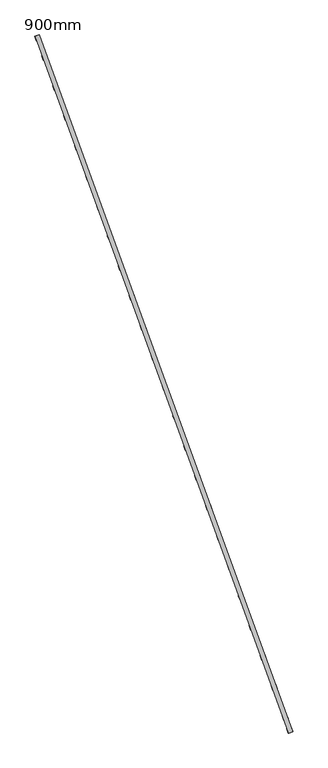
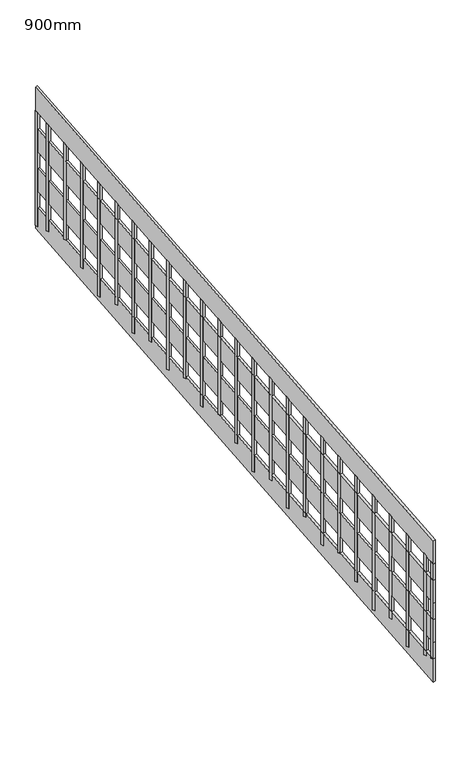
"""IFC4 building model written with IfcOpenShell, lengths in millimetres: railing geometry, 900mm."""

from ifc_helpers import new_model, si_unit, frame, origin, place, context, project, spatial, polyline, outline, extrude, source, transform, mapped, element, save


def railing_900mm_ea350c1b(model_context):
    return source(origin(), model_context, "Body", "SweptSolid", [
        extrude(outline(polyline([(-91.076923, -147.9999999), (0.0, 0.0), (3816.0843806, 0.0), (3725.0074575, -147.9999999), (-91.076923, -147.9999999)])), frame((19590.0899553, 24434.2551874, 5153.8461538), z_axis=(0.939692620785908, 0.3420201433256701, 0.0), x_axis=(-0.29128429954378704, 0.8002970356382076, 0.5240974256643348)), (0.0, 0.0, 1.0), 19.0),
        extrude(outline(polyline([(-91.076923, -147.9999999), (0.0, 0.0), (3816.0843806, 0.0), (3725.0074575, -147.9999999), (-91.076923, -147.9999999)])), frame((19590.0899553, 24434.2551874, 4853.8461538), z_axis=(0.9396926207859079, 0.34202014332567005, 0.0), x_axis=(-0.29128429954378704, 0.8002970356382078, 0.5240974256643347)), (0.0, 0.0, 1.0), 19.0),
        extrude(outline(polyline([(-91.076923, -147.9999999), (0.0, 0.0), (3816.0843806, 0.0), (3725.0074575, -147.9999999), (-91.076923, -147.9999999)])), frame((19590.0899553, 24434.2551874, 4553.8461538), z_axis=(0.9396926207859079, 0.34202014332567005, 0.0), x_axis=(-0.29128429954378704, 0.8002970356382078, 0.5240974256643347)), (0.0, 0.0, 1.0), 19.0),
        extrude(outline(polyline([(-91.076923, -147.9999999), (0.0, 0.0), (3816.0843806, 0.0), (3725.0074575, -147.9999999), (-91.076923, -147.9999999)])), frame((19590.0899553, 24434.2551874, 4253.8461538), z_axis=(0.9396926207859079, 0.34202014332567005, 0.0), x_axis=(-0.29128429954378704, 0.8002970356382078, 0.5240974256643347)), (0.0, 0.0, 1.0), 19.0),
        extrude(outline(polyline([(918.5290805, -20.0), (106.1538461, -20.0), (93.8461538, 0.0), (918.5290805, 0.0), (918.5290805, -20.0)])), frame((18508.8364561, 27403.512859, 7018.5290805), z_axis=(0.939692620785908, 0.3420201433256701, 0.0), x_axis=(0.0, 0.0, -1.0)), (0.0, 0.0, 1.0), 20.0),
        extrude(outline(polyline([(832.3752344, -20.0), (106.1538462, -20.0), (93.8461539, 0.0), (832.3752344, 0.0), (832.3752344, -20.0)])), frame((18556.7192762, 27271.9558921, 6932.3752344), z_axis=(0.939692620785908, 0.3420201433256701, 0.0), x_axis=(0.0, 0.0, -1.0)), (0.0, 0.0, 1.0), 20.0),
        extrude(outline(polyline([(900.067542, -20.0), (106.1538461, -20.0), (93.8461538, 0.0), (900.067542, 0.0), (900.067542, -20.0)])), frame((18604.6020962, 27140.3989252, 6846.2213882), z_axis=(0.939692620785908, 0.3420201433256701, 0.0), x_axis=(0.0, 0.0, -1.0)), (0.0, 0.0, 1.0), 20.0),
        extrude(outline(polyline([(967.7598498, -20.0), (106.1538462, -20.0), (93.8461539, 0.0), (967.7598498, 0.0), (967.7598498, -20.0)])), frame((18652.4849163, 27008.8419583, 6760.0675421), z_axis=(0.939692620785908, 0.3420201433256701, 0.0), x_axis=(0.0, 0.0, -1.0)), (0.0, 0.0, 1.0), 20.0),
        extrude(outline(polyline([(881.6060036, -20.0000001), (106.1538462, -20.0000001), (93.8461538, 0.0), (881.6060036, 0.0), (881.6060036, -20.0000001)])), frame((18700.3677364, 26877.2849914, 6673.9136959), z_axis=(0.939692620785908, 0.3420201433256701, 0.0), x_axis=(0.0, 0.0, -1.0)), (0.0, 0.0, 1.0), 20.0),
        extrude(outline(polyline([(949.2983112, -20.0), (106.1538461, -20.0), (93.8461538, 0.0), (949.2983112, 0.0), (949.2983112, -20.0)])), frame((18748.2505564, 26745.7280244, 6587.7598497), z_axis=(0.939692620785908, 0.3420201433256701, 0.0), x_axis=(0.0, 0.0, -1.0)), (0.0, 0.0, 1.0), 20.0),
        extrude(outline(polyline([(863.1444651, -20.0), (106.1538462, -20.0), (93.8461539, 0.0), (863.1444651, 0.0), (863.1444651, -20.0)])), frame((18796.1333765, 26614.1710575, 6501.6060036), z_axis=(0.939692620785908, 0.3420201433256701, 0.0), x_axis=(0.0, 0.0, -1.0)), (0.0, 0.0, 1.0), 20.0),
        extrude(outline(polyline([(930.8367728, -20.0), (106.1538461, -20.0), (93.8461538, 0.0), (930.8367728, 0.0), (930.8367728, -20.0)])), frame((18844.0161966, 26482.6140906, 6415.4521574), z_axis=(0.939692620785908, 0.3420201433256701, 0.0), x_axis=(0.0, 0.0, -1.0)), (0.0, 0.0, 1.0), 20.0),
        extrude(outline(polyline([(844.6829267, -20.0), (106.1538462, -20.0), (93.8461539, 0.0), (844.6829267, 0.0), (844.6829267, -20.0)])), frame((18891.8990166, 26351.0571237, 6329.2983113), z_axis=(0.939692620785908, 0.3420201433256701, 0.0), x_axis=(0.0, 0.0, -1.0)), (0.0, 0.0, 1.0), 20.0),
        extrude(outline(polyline([(912.3752343, -20.0), (106.1538461, -20.0), (93.8461538, 0.0), (912.3752343, 0.0), (912.3752343, -20.0)])), frame((18939.7818367, 26219.5001568, 6243.1444651), z_axis=(0.939692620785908, 0.3420201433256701, 0.0), x_axis=(0.0, 0.0, -1.0)), (0.0, 0.0, 1.0), 20.0),
        extrude(outline(polyline([(826.2213882, -20.0), (106.1538462, -20.0), (93.8461539, 0.0), (826.2213882, 0.0), (826.2213882, -20.0)])), frame((18987.6646568, 26087.9431899, 6156.990619), z_axis=(0.939692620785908, 0.3420201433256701, 0.0), x_axis=(0.0, 0.0, -1.0)), (0.0, 0.0, 1.0), 20.0),
        extrude(outline(polyline([(893.9136959, -20.0), (106.1538461, -20.0), (93.8461538, 0.0), (893.9136959, 0.0), (893.9136959, -20.0)])), frame((19035.5474768, 25956.386223, 6070.8367728), z_axis=(0.939692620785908, 0.3420201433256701, 0.0), x_axis=(0.0, 0.0, -1.0)), (0.0, 0.0, 1.0), 20.0),
        extrude(outline(polyline([(961.6060036, -20.0), (106.1538462, -20.0), (93.8461539, 0.0), (961.6060036, 0.0), (961.6060036, -20.0)])), frame((19083.4302969, 25824.8292561, 5984.6829267), z_axis=(0.939692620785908, 0.3420201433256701, 0.0), x_axis=(0.0, 0.0, -1.0)), (0.0, 0.0, 1.0), 20.0),
        extrude(outline(polyline([(875.4521574, -20.0), (106.1538461, -20.0), (93.8461538, 0.0), (875.4521574, 0.0), (875.4521574, -20.0)])), frame((19131.313117, 25693.2722892, 5898.5290805), z_axis=(0.939692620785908, 0.3420201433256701, 0.0), x_axis=(0.0, 0.0, -1.0)), (0.0, 0.0, 1.0), 20.0),
        extrude(outline(polyline([(943.1444652, -20.0000001), (106.1538462, -20.0000001), (93.8461539, 0.0), (943.1444652, 0.0), (943.1444652, -20.0000001)])), frame((19179.195937, 25561.7153223, 5812.3752344), z_axis=(0.939692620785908, 0.3420201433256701, 0.0), x_axis=(0.0, 0.0, -1.0)), (0.0, 0.0, 1.0), 20.0),
        extrude(outline(polyline([(856.990619, -20.0), (106.1538461, -20.0), (93.8461538, 0.0), (856.990619, 0.0), (856.990619, -20.0)])), frame((19227.0787571, 25430.1583553, 5726.2213882), z_axis=(0.939692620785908, 0.3420201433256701, 0.0), x_axis=(0.0, 0.0, -1.0)), (0.0, 0.0, 1.0), 20.0),
        extrude(outline(polyline([(924.6829267, -20.0), (106.1538462, -20.0), (93.8461539, 0.0), (924.6829267, 0.0), (924.6829267, -20.0)])), frame((19274.9615772, 25298.6013884, 5640.0675421), z_axis=(0.939692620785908, 0.3420201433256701, 0.0), x_axis=(0.0, 0.0, -1.0)), (0.0, 0.0, 1.0), 20.0),
        extrude(outline(polyline([(838.5290805, -20.0), (106.1538462, -20.0), (93.8461538, 0.0), (838.5290805, 0.0), (838.5290805, -20.0)])), frame((19322.8443972, 25167.0444215, 5553.9136959), z_axis=(0.939692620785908, 0.3420201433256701, 0.0), x_axis=(0.0, 0.0, -1.0)), (0.0, 0.0, 1.0), 20.0),
        extrude(outline(polyline([(906.2213882, -20.0), (106.1538461, -20.0), (93.8461538, 0.0), (906.2213882, 0.0), (906.2213882, -20.0)])), frame((19370.7272173, 25035.4874546, 5467.7598497), z_axis=(0.939692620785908, 0.3420201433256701, 0.0), x_axis=(0.0, 0.0, -1.0)), (0.0, 0.0, 1.0), 20.0),
        extrude(outline(polyline([(973.9136959, -20.0), (106.1538462, -20.0), (93.8461539, 0.0), (973.9136959, 0.0), (973.9136959, -20.0)])), frame((19418.6100374, 24903.9304877, 5381.6060036), z_axis=(0.939692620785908, 0.3420201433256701, 0.0), x_axis=(0.0, 0.0, -1.0)), (0.0, 0.0, 1.0), 20.0),
        extrude(outline(polyline([(887.7598497, -20.0), (106.1538461, -20.0), (93.8461538, 0.0), (887.7598497, 0.0), (887.7598497, -20.0)])), frame((19466.4928574, 24772.3735208, 5295.4521574), z_axis=(0.939692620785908, 0.3420201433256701, 0.0), x_axis=(0.0, 0.0, -1.0)), (0.0, 0.0, 1.0), 20.0),
        extrude(outline(polyline([(955.4521575, -20.0), (106.1538462, -20.0), (93.8461539, 0.0), (955.4521575, 0.0), (955.4521575, -20.0)])), frame((19514.3756775, 24640.8165539, 5209.2983113), z_axis=(0.939692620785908, 0.3420201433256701, 0.0), x_axis=(0.0, 0.0, -1.0)), (0.0, 0.0, 1.0), 20.0),
        extrude(outline(polyline([(869.2983113, -20.0), (106.1538461, -20.0), (93.8461538, 0.0), (869.2983113, 0.0), (869.2983113, -20.0)])), frame((19562.2584976, 24509.259587, 5123.1444651), z_axis=(0.939692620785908, 0.3420201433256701, 0.0), x_axis=(0.0, 0.0, -1.0)), (0.0, 0.0, 1.0), 20.0),
        extrude(outline(polyline([(973.9136959, -20.0), (106.1538462, -20.0), (93.8461538, 0.0), (973.9136959, 0.0), (973.9136959, -20.0)])), frame((18478.0546432, 27488.0851949, 7073.9136959), z_axis=(0.939692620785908, 0.3420201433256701, 0.0), x_axis=(0.0, 0.0, -1.0)), (0.0, 0.0, 1.0), 20.0),
        extrude(outline(polyline([(832.3752344, -20.0), (106.1538461, -20.0), (93.8461538, 0.0), (832.3752344, 0.0), (832.3752344, -20.0)])), frame((19582.7797062, 24452.8780297, 5086.2213882), z_axis=(0.939692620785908, 0.3420201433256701, 0.0), x_axis=(0.0, 0.0, -1.0)), (0.0, 0.0, 1.0), 20.0),
    ])


if __name__ == "__main__":
    model = new_model("IFC4")
    model_context = context("Model", 3, world=origin())
    ifc_project = project(units=[si_unit("LENGTHUNIT", "METRE", prefix="MILLI")], contexts=[model_context])
    site = spatial("IfcSite", under=ifc_project)
    building = spatial("IfcBuilding", under=site)
    placement = place(None, origin())
    railing_900mm_shape = railing_900mm_ea350c1b(model_context)
    element("IfcRailing", 1, ObjectType="900mm", at=placement, inside=building, context=model_context, shape_type="MappedRepresentation", body=[
        mapped(railing_900mm_shape, transform((0.0, 0.0, 0.0), x_axis=(1.0, 0.0, 0.0), y_axis=(0.0, 1.0, 0.0), z_axis=(0.0, 0.0, 1.0))),
    ])
    save(model, "model.ifc")
